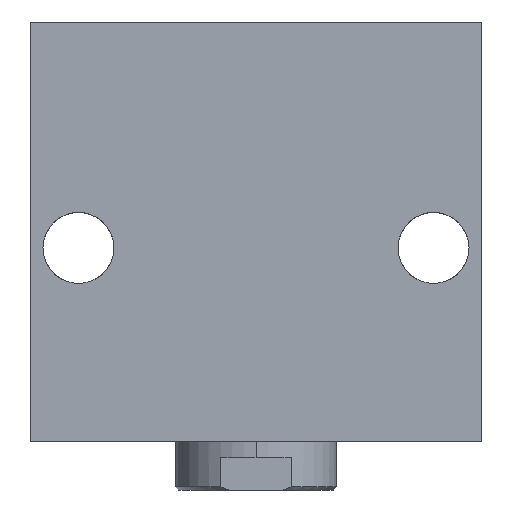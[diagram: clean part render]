
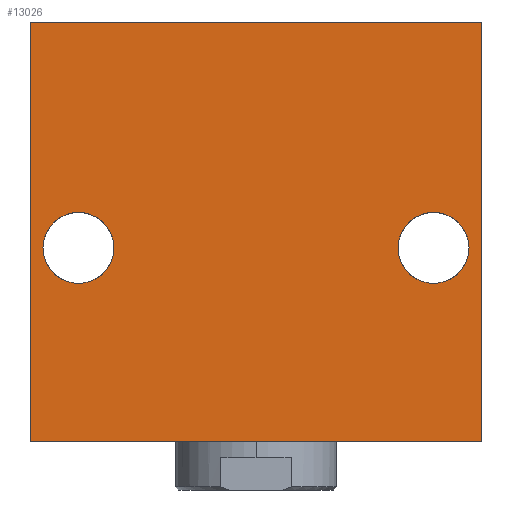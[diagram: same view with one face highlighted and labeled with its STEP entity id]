
A CAD part, front view. The second image highlights one B-rep face of the part: STEP entity #13026.
In plain terms, the highlighted planar face has unit normal (0, -1, 0).
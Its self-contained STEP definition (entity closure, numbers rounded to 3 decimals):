
#364 = VERTEX_POINT ( 'NONE', #8464 ) ;
#680 = CARTESIAN_POINT ( 'NONE',  ( 70., 0., 65. ) ) ;
#927 = PLANE ( 'NONE',  #14233 ) ;
#980 = EDGE_LOOP ( 'NONE', ( #16980, #8838 ) ) ;
#1074 = AXIS2_PLACEMENT_3D ( 'NONE', #7409, #17043, #8834 ) ;
#1104 = AXIS2_PLACEMENT_3D ( 'NONE', #16086, #16079, #15958 ) ;
#1593 = DIRECTION ( 'NONE',  ( -1., 0., 0. ) ) ;
#1853 = CARTESIAN_POINT ( 'NONE',  ( 55., 0., -5. ) ) ;
#1906 = EDGE_CURVE ( 'NONE', #10356, #10101, #2159, .T. ) ;
#2105 = VERTEX_POINT ( 'NONE', #680 ) ;
#2159 = CIRCLE ( 'NONE', #1104, 11. ) ;
#2337 = CARTESIAN_POINT ( 'NONE',  ( 0., 0., 0. ) ) ;
#2560 = CARTESIAN_POINT ( 'NONE',  ( -70., 0., -65. ) ) ;
#2776 = ORIENTED_EDGE ( 'NONE', *, *, #7678, .F. ) ;
#3093 = CARTESIAN_POINT ( 'NONE',  ( -70., 0., 65. ) ) ;
#3308 = DIRECTION ( 'NONE',  ( 0., 0., 1. ) ) ;
#3348 = AXIS2_PLACEMENT_3D ( 'NONE', #1853, #11800, #3308 ) ;
#3445 = CARTESIAN_POINT ( 'NONE',  ( -55., 0., -16. ) ) ;
#3519 = CARTESIAN_POINT ( 'NONE',  ( -55., 0., -5. ) ) ;
#3812 = DIRECTION ( 'NONE',  ( 0., 0., 1. ) ) ;
#4429 = CARTESIAN_POINT ( 'NONE',  ( -70., 0., -65. ) ) ;
#4443 = EDGE_CURVE ( 'NONE', #364, #10274, #12324, .T. ) ;
#4813 = EDGE_CURVE ( 'NONE', #14218, #16006, #5931, .T. ) ;
#4963 = DIRECTION ( 'NONE',  ( 0., 0., 1. ) ) ;
#5490 = EDGE_LOOP ( 'NONE', ( #7051, #2776, #13592, #15460 ) ) ;
#5629 = LINE ( 'NONE', #9666, #13081 ) ;
#5931 = CIRCLE ( 'NONE', #6031, 11. ) ;
#6031 = AXIS2_PLACEMENT_3D ( 'NONE', #3519, #13356, #4963 ) ;
#6123 = CARTESIAN_POINT ( 'NONE',  ( 55., 0., 6. ) ) ;
#6851 = FACE_BOUND ( 'NONE', #16608, .T. ) ;
#7051 = ORIENTED_EDGE ( 'NONE', *, *, #4443, .F. ) ;
#7409 = CARTESIAN_POINT ( 'NONE',  ( -55., 0., -5. ) ) ;
#7675 = CARTESIAN_POINT ( 'NONE',  ( 70., 0., -65. ) ) ;
#7678 = EDGE_CURVE ( 'NONE', #17163, #364, #14408, .T. ) ;
#7991 = DIRECTION ( 'NONE',  ( 0., 1., 0. ) ) ;
#8262 = DIRECTION ( 'NONE',  ( 0., 0., 1. ) ) ;
#8385 = ORIENTED_EDGE ( 'NONE', *, *, #1906, .T. ) ;
#8401 = CARTESIAN_POINT ( 'NONE',  ( -55., 0., 6. ) ) ;
#8464 = CARTESIAN_POINT ( 'NONE',  ( -70., 0., -65. ) ) ;
#8592 = VECTOR ( 'NONE', #8262, 1000. ) ;
#8834 = DIRECTION ( 'NONE',  ( 0., 0., 1. ) ) ;
#8838 = ORIENTED_EDGE ( 'NONE', *, *, #17345, .T. ) ;
#9233 = CIRCLE ( 'NONE', #3348, 11. ) ;
#9240 = EDGE_CURVE ( 'NONE', #2105, #17163, #11617, .T. ) ;
#9666 = CARTESIAN_POINT ( 'NONE',  ( -70., 0., 65. ) ) ;
#10101 = VERTEX_POINT ( 'NONE', #12104 ) ;
#10274 = VERTEX_POINT ( 'NONE', #3093 ) ;
#10356 = VERTEX_POINT ( 'NONE', #6123 ) ;
#10555 = EDGE_CURVE ( 'NONE', #10274, #2105, #5629, .T. ) ;
#10651 = FACE_OUTER_BOUND ( 'NONE', #5490, .T. ) ;
#11201 = VECTOR ( 'NONE', #17122, 1000. ) ;
#11617 = LINE ( 'NONE', #7675, #11201 ) ;
#11686 = ORIENTED_EDGE ( 'NONE', *, *, #16883, .T. ) ;
#11800 = DIRECTION ( 'NONE',  ( 0., 1., 0. ) ) ;
#12104 = CARTESIAN_POINT ( 'NONE',  ( 55., 0., -16. ) ) ;
#12324 = LINE ( 'NONE', #2560, #8592 ) ;
#13026 = ADVANCED_FACE ( 'NONE', ( #14652, #6851, #10651 ), #927, .F. ) ;
#13081 = VECTOR ( 'NONE', #17865, 1000. ) ;
#13356 = DIRECTION ( 'NONE',  ( 0., 1., 0. ) ) ;
#13563 = VECTOR ( 'NONE', #1593, 1000. ) ;
#13592 = ORIENTED_EDGE ( 'NONE', *, *, #9240, .F. ) ;
#14218 = VERTEX_POINT ( 'NONE', #8401 ) ;
#14233 = AXIS2_PLACEMENT_3D ( 'NONE', #2337, #7991, #3812 ) ;
#14408 = LINE ( 'NONE', #4429, #13563 ) ;
#14652 = FACE_BOUND ( 'NONE', #980, .T. ) ;
#15460 = ORIENTED_EDGE ( 'NONE', *, *, #10555, .F. ) ;
#15958 = DIRECTION ( 'NONE',  ( 0., 0., 1. ) ) ;
#16006 = VERTEX_POINT ( 'NONE', #3445 ) ;
#16079 = DIRECTION ( 'NONE',  ( 0., 1., 0. ) ) ;
#16086 = CARTESIAN_POINT ( 'NONE',  ( 55., 0., -5. ) ) ;
#16259 = CIRCLE ( 'NONE', #1074, 11. ) ;
#16608 = EDGE_LOOP ( 'NONE', ( #8385, #11686 ) ) ;
#16883 = EDGE_CURVE ( 'NONE', #10101, #10356, #9233, .T. ) ;
#16980 = ORIENTED_EDGE ( 'NONE', *, *, #4813, .T. ) ;
#17043 = DIRECTION ( 'NONE',  ( 0., 1., 0. ) ) ;
#17122 = DIRECTION ( 'NONE',  ( 0., 0., -1. ) ) ;
#17163 = VERTEX_POINT ( 'NONE', #18045 ) ;
#17345 = EDGE_CURVE ( 'NONE', #16006, #14218, #16259, .T. ) ;
#17865 = DIRECTION ( 'NONE',  ( 1., 0., 0. ) ) ;
#18045 = CARTESIAN_POINT ( 'NONE',  ( 70., 0., -65. ) ) ;
